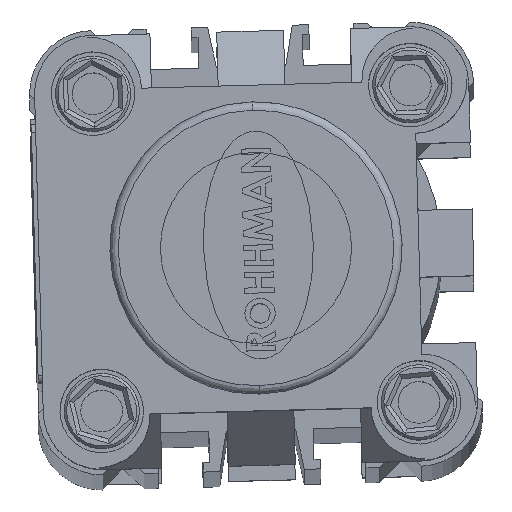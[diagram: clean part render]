
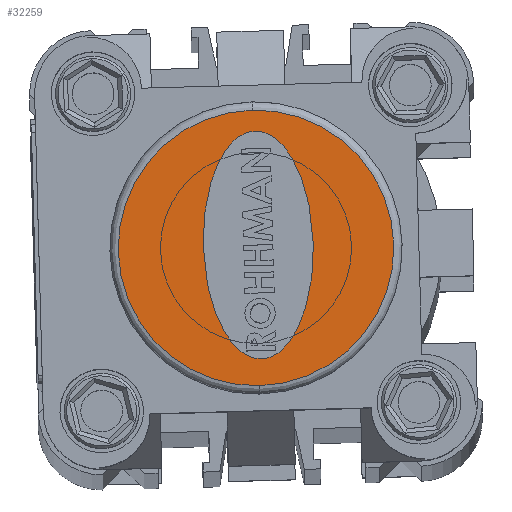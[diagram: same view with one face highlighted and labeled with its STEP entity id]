
A CAD part, top view. The second image highlights one B-rep face of the part: STEP entity #32259.
In plain terms, the highlighted planar face has unit normal (0, 0, 1) as drawn and (0, 0, -1) by its records, which use the part's own axes.
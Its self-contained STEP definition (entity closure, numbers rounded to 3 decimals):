
#781 = CARTESIAN_POINT ( 'NONE',  ( 39.297, 25.719, -4. ) ) ;
#1067 = ORIENTED_EDGE ( 'NONE', *, *, #7324, .F. ) ;
#1547 = CIRCLE ( 'NONE', #28086, 16.5 ) ;
#2185 = AXIS2_PLACEMENT_3D ( 'NONE', #30216, #9281, #22256 ) ;
#2302 = CARTESIAN_POINT ( 'NONE',  ( 26., 26., -4. ) ) ;
#2458 = DIRECTION ( 'NONE',  ( 0., 0., -1. ) ) ;
#3190 = CARTESIAN_POINT ( 'NONE',  ( 12.017, 25.719, -4. ) ) ;
#4512 = EDGE_CURVE ( 'NONE', #14335, #21422, #1547, .T. ) ;
#5466 = DIRECTION ( 'NONE',  ( 0., 0., -1. ) ) ;
#5953 = VERTEX_POINT ( 'NONE', #781 ) ;
#6501 = CARTESIAN_POINT ( 'NONE',  ( 12.017, 25.719, -4. ) ) ;
#7263 = DIRECTION ( 'NONE',  ( -1., 0., 0. ) ) ;
#7324 = EDGE_CURVE ( 'NONE', #31167, #5953, #20009, .T. ) ;
#7550 = CARTESIAN_POINT ( 'NONE',  ( 12.017, 25.719, -4. ) ) ;
#9268 = ORIENTED_EDGE ( 'NONE', *, *, #16877, .T. ) ;
#9281 = DIRECTION ( 'NONE',  ( 0., 0., -1. ) ) ;
#10439 = EDGE_CURVE ( 'NONE', #5953, #31167, #11969, .T. ) ;
#11476 = CARTESIAN_POINT ( 'NONE',  ( 39.297, 25.719, -4. ) ) ;
#11969 =( BOUNDED_CURVE ( )  B_SPLINE_CURVE ( 3, ( #11476, #21612, #31720, #6501 ),
 .UNSPECIFIED., .F., .F. ) 
 B_SPLINE_CURVE_WITH_KNOTS ( ( 4, 4 ),
 ( 0., 3.142 ),
 .UNSPECIFIED. ) 
 CURVE ( )  GEOMETRIC_REPRESENTATION_ITEM ( )  RATIONAL_B_SPLINE_CURVE ( ( 1., 0.333, 0.333, 1. ) ) 
 REPRESENTATION_ITEM ( '' )  );
#12769 = DIRECTION ( 'NONE',  ( -1., 0., 0. ) ) ;
#14335 = VERTEX_POINT ( 'NONE', #29379 ) ;
#16877 = EDGE_CURVE ( 'NONE', #21422, #14335, #30786, .T. ) ;
#17535 = AXIS2_PLACEMENT_3D ( 'NONE', #20398, #5466, #12769 ) ;
#18104 = EDGE_LOOP ( 'NONE', ( #9268, #19063 ) ) ;
#19063 = ORIENTED_EDGE ( 'NONE', *, *, #4512, .T. ) ;
#19741 = FACE_BOUND ( 'NONE', #27380, .T. ) ;
#20009 =( BOUNDED_CURVE ( )  B_SPLINE_CURVE ( 3, ( #3190, #20621, #25782, #25642 ),
 .UNSPECIFIED., .F., .F. ) 
 B_SPLINE_CURVE_WITH_KNOTS ( ( 4, 4 ),
 ( 3.142, 6.283 ),
 .UNSPECIFIED. ) 
 CURVE ( )  GEOMETRIC_REPRESENTATION_ITEM ( )  RATIONAL_B_SPLINE_CURVE ( ( 1., 0.333, 0.333, 1. ) ) 
 REPRESENTATION_ITEM ( '' )  );
#20398 = CARTESIAN_POINT ( 'NONE',  ( 26., 26., -4. ) ) ;
#20621 = CARTESIAN_POINT ( 'NONE',  ( 12.017, 38.913, -4. ) ) ;
#20907 = ORIENTED_EDGE ( 'NONE', *, *, #10439, .F. ) ;
#21422 = VERTEX_POINT ( 'NONE', #24331 ) ;
#21612 = CARTESIAN_POINT ( 'NONE',  ( 39.297, 12.525, -4. ) ) ;
#22256 = DIRECTION ( 'NONE',  ( -1., 0., 0. ) ) ;
#24331 = CARTESIAN_POINT ( 'NONE',  ( 9.5, 26., -4. ) ) ;
#24750 = PLANE ( 'NONE',  #2185 ) ;
#25642 = CARTESIAN_POINT ( 'NONE',  ( 39.297, 25.719, -4. ) ) ;
#25782 = CARTESIAN_POINT ( 'NONE',  ( 39.297, 38.913, -4. ) ) ;
#27380 = EDGE_LOOP ( 'NONE', ( #20907, #1067 ) ) ;
#28086 = AXIS2_PLACEMENT_3D ( 'NONE', #2302, #2458, #7263 ) ;
#29379 = CARTESIAN_POINT ( 'NONE',  ( 42.5, 26., -4. ) ) ;
#29715 = FACE_OUTER_BOUND ( 'NONE', #18104, .T. ) ;
#30216 = CARTESIAN_POINT ( 'NONE',  ( 26., 26., -4. ) ) ;
#30786 = CIRCLE ( 'NONE', #17535, 16.5 ) ;
#31167 = VERTEX_POINT ( 'NONE', #7550 ) ;
#31720 = CARTESIAN_POINT ( 'NONE',  ( 12.017, 12.525, -4. ) ) ;
#32259 = ADVANCED_FACE ( 'NONE', ( #19741, #29715 ), #24750, .T. ) ;
